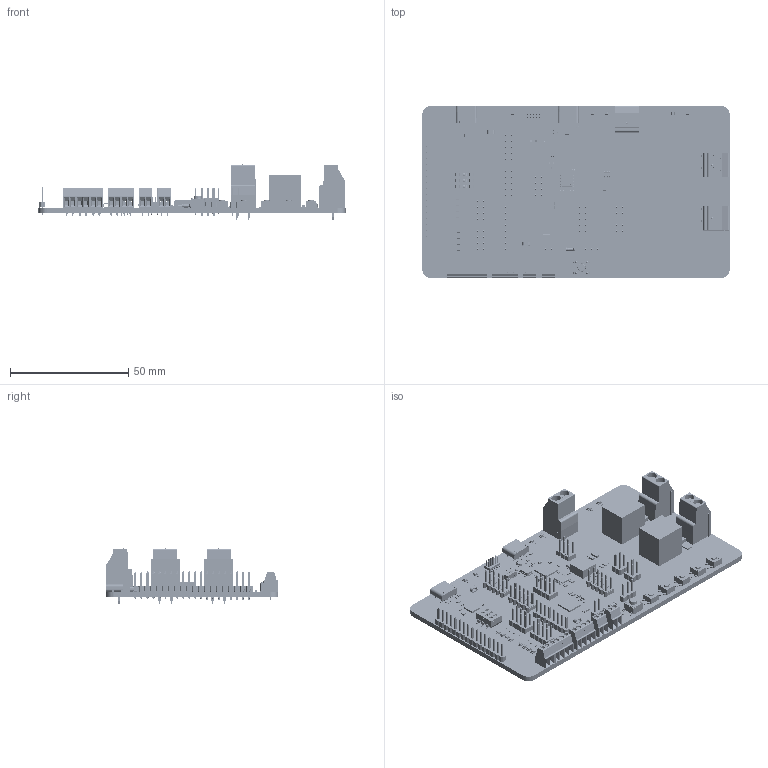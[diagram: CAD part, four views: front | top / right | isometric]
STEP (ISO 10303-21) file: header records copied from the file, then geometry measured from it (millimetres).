
FILE_DESCRIPTION(('Open CASCADE Model'),'2;1');
FILE_NAME('Open CASCADE Shape Model','2025-04-15T08:55:05',('Author'),( 'Open CASCADE'),'Open CASCADE STEP processor 6.8','Open CASCADE 6.8' ,'Unknown');
FILE_SCHEMA(('AUTOMOTIVE_DESIGN { 1 0 10303 214 1 1 1 1 }'));
Length unit declared in the file: millimetre
Products named in the file (256): PCB; Board; K2; 1225283680; Extruded; K1; C14; User_Library-SMD_CAPACITOR0402; C33; FB1; User_Library-Chip_InductorINDC1005X60N; J2; 75844-101-06LF--3DModel-STEP-554624; CN1; USBCSMD; Free-Models-1; 1457591312; Extruded-1; PCB-1; Free-Models; TYP-C; Part4; Part5; Part5-2; Part5-1; Part8; Part9; Part10-1; Part10; CN2; C20; User_Library-SMD_CAPACITOR1206; C21; Y1; User_Library-ABM3; User_Library-ABM3_BodyBase; User_Library-ABM3_TopCap; User_Library-ABM3_Pocket001; User_Library-ABM3_Pocket; U4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
Assembly tree (441 placements, depth 10):
  PCB
    Board
    K2
      1225283680
        Extruded
    K1
      1225283680
        Extruded
    C14
      User_Library-SMD_CAPACITOR0402
    C33
      User_Library-SMD_CAPACITOR0402
    FB1
      User_Library-Chip_InductorINDC1005X60N
    J2
      75844-101-06LF--3DModel-STEP-554624
    CN1
      USBCSMD
        PCB
          Free-Models-1
            1457591312  x12
              Extruded-1
            USBCSMD
              PCB-1
                Free-Models
                  TYP-C
    CN2
      USBCSMD
        PCB
          Free-Models-1
            1457591312  x12
              Extruded-1
            USBCSMD
              PCB-1
                Free-Models
                  TYP-C
    C20
      User_Library-SMD_CAPACITOR1206
    C21
      User_Library-SMD_CAPACITOR1206
    Y1
      User_Library-ABM3
        User_Library-ABM3_BodyBase
        User_Library-ABM3_TopCap
        User_Library-ABM3_Pocket001
        User_Library-ABM3_Pocket
    U4
      User_Library-QFN48_7x7
    U6
      MAX3421EETJ+
    U5
      1225283408
        Extruded
    U2
      User_Library-SOT23-6-2
    U3
      User_Library-QFN48_7x7
    TVS1
      User_Library-R_0603
    TVS2
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Bounding box: 130 x 73 x 23.3 mm (x, y, z)
Volume: 35544 mm3; surface area: 40387.1 mm2
Topology: 577 solids, 580 shells, 15989 faces, 40272 edges, 25742 vertices
Faces by surface type: plane 11479, cylinder 2079, bspline 1998, sphere 409, torus 23, cone 1
Full cylindrical faces by diameter (mm): 0.6 x4, 0.762 x20
Entity records: 224261 total; most frequent: CARTESIAN_POINT 55129, ORIENTED_EDGE 29336, DIRECTION 25542, EDGE_CURVE 14668, LINE 11168, VECTOR 11168, VERTEX_POINT 9535, AXIS2_PLACEMENT_3D 7187
